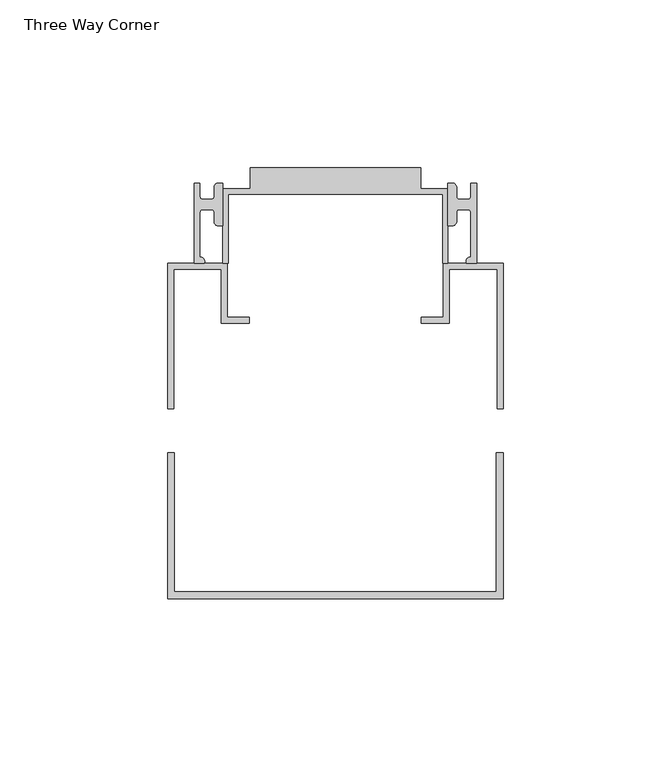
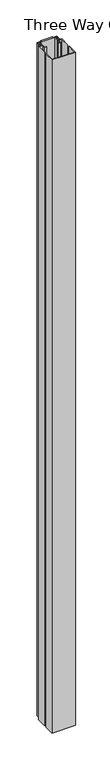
"""IFC4 building model written with IfcOpenShell, lengths in millimetres: proxy geometry, Connection-Corner-Teknion-OptosLP-Three_Way_FZCD3_G : Three Way Corner."""

from ifc_helpers import new_model, si_unit, point, frame_2d, origin, origin_with_axes, place, context, project, spatial, polyline, circle_curve, trimmed, segment, composite_curve, outline, extrude, source, transform, mapped, element, save


def three_way_corner_eebd27aa(model_context):
    return source(origin(), model_context, "Body", "SweptSolid", [
        extrude(outline(composite_curve([segment(polyline([(-42.1386, 49.9918333), (-42.1386, 73.8678335), (-40.360601, 73.8678335), (-40.360601, 69.8038326)]), True, "CONTINUOUS"), segment(trimmed(circle_curve(frame_2d((-39.5986011, 69.8038326)), 0.7619999), [point((-40.360601, 69.8038326))], [point((-39.5986011, 69.0418327))], True, "CARTESIAN"), True, "CONTINUOUS"), segment(polyline([(-39.5986011, 69.0418327), (-36.9316011, 69.0418325)]), True, "CONTINUOUS"), segment(trimmed(circle_curve(frame_2d((-36.9316011, 69.8038326)), 0.7620001), [point((-36.9316011, 69.0418325))], [point((-36.169601, 69.8038326))], True, "CARTESIAN"), True, "CONTINUOUS"), segment(polyline([(-36.169601, 69.8038326), (-36.169601, 72.5978326)]), True, "CONTINUOUS"), segment(trimmed(circle_curve(frame_2d((-34.8996001, 72.5978326)), 1.2700009), [point((-36.169601, 72.5978326))], [point((-34.8996001, 73.8678335))], False, "CARTESIAN"), True, "CONTINUOUS"), segment(polyline([(-34.8996001, 73.8678335), (-33.5509483, 73.8678335), (-33.5509483, 61.1678309), (-34.8995992, 61.1678309)]), True, "CONTINUOUS"), segment(trimmed(circle_curve(frame_2d((-34.8995992, 62.4378326)), 1.2700017), [point((-34.8995992, 61.1678309))], [point((-36.1696009, 62.4378326))], False, "CARTESIAN"), True, "CONTINUOUS"), segment(polyline([(-36.1696009, 62.4378326), (-36.1696009, 65.2318326)]), True, "CONTINUOUS"), segment(trimmed(circle_curve(frame_2d((-36.9316011, 65.2318326)), 0.762), [point((-36.1696009, 65.2318326))], [point((-36.9131345, 65.9936088))], True, "CARTESIAN"), True, "CONTINUOUS"), segment(polyline([(-36.9131345, 65.9936088), (-39.5994933, 65.9936088)]), True, "CONTINUOUS"), segment(trimmed(circle_curve(frame_2d((-39.5994933, 65.2319427)), 0.7616661), [point((-39.5994933, 65.9936088))], [point((-40.3611594, 65.2319427))], True, "CARTESIAN"), True, "CONTINUOUS"), segment(polyline([(-40.3611594, 65.2319427), (-40.3611594, 51.7634104)]), True, "CONTINUOUS"), segment(trimmed(circle_curve(frame_2d((-40.2336011, 50.4998326)), 1.27), [point((-40.3611594, 51.7634104))], [point((-39.0696266, 49.9918333))], False, "CARTESIAN"), True, "CONTINUOUS"), segment(polyline([(-39.0696266, 49.9918333), (-42.1386, 49.9918333)]), True, "CONTINUOUS")], self_intersect=False)), origin_with_axes(), (0.0, 0.0, 1.0), 3048.0),
        extrude(outline(composite_curve([segment(polyline([(42.1386, 49.9918333), (39.0696266, 49.9918333)]), True, "CONTINUOUS"), segment(trimmed(circle_curve(frame_2d((40.2336011, 50.4998326)), 1.27), [point((39.0696266, 49.9918333))], [point((40.3611594, 51.7634104))], False, "CARTESIAN"), True, "CONTINUOUS"), segment(polyline([(40.3611594, 51.7634104), (40.3611594, 65.2319427)]), True, "CONTINUOUS"), segment(trimmed(circle_curve(frame_2d((39.5994933, 65.2319427)), 0.7616661), [point((40.3611594, 65.2319427))], [point((39.5994933, 65.9936088))], True, "CARTESIAN"), True, "CONTINUOUS"), segment(polyline([(39.5994933, 65.9936088), (36.9131345, 65.9936088)]), True, "CONTINUOUS"), segment(trimmed(circle_curve(frame_2d((36.9316011, 65.2318326)), 0.762), [point((36.9131345, 65.9936088))], [point((36.1696011, 65.2318326))], True, "CARTESIAN"), True, "CONTINUOUS"), segment(polyline([(36.1696011, 65.2318326), (36.1696009, 62.4378326)]), True, "CONTINUOUS"), segment(trimmed(circle_curve(frame_2d((34.8995992, 62.4378326)), 1.2700017), [point((36.1696009, 62.4378326))], [point((34.8995992, 61.1678309))], False, "CARTESIAN"), True, "CONTINUOUS"), segment(polyline([(34.8995992, 61.1678309), (33.5509483, 61.1678309), (33.5509483, 73.8678335), (34.8996001, 73.8678335)]), True, "CONTINUOUS"), segment(trimmed(circle_curve(frame_2d((34.8996001, 72.5978326)), 1.2700009), [point((34.8996001, 73.8678335))], [point((36.169601, 72.5978326))], False, "CARTESIAN"), True, "CONTINUOUS"), segment(polyline([(36.169601, 72.5978326), (36.169601, 69.8038326)]), True, "CONTINUOUS"), segment(trimmed(circle_curve(frame_2d((36.9316011, 69.8038326)), 0.7620001), [point((36.169601, 69.8038326))], [point((36.9316011, 69.0418325))], True, "CARTESIAN"), True, "CONTINUOUS"), segment(polyline([(36.9316011, 69.0418325), (39.5986011, 69.0418325)]), True, "CONTINUOUS"), segment(trimmed(circle_curve(frame_2d((39.5986011, 69.8038326)), 0.7619999), [point((39.5986011, 69.0418325))], [point((40.360601, 69.8038326))], True, "CARTESIAN"), True, "CONTINUOUS"), segment(polyline([(40.360601, 69.8038326), (40.360601, 73.8678335), (42.1386, 73.8678335), (42.1386, 49.9918333)]), True, "CONTINUOUS")], self_intersect=False)), origin_with_axes(), (0.0, 0.0, 1.0), 3048.0),
        extrude(outline(polyline([(-32.0039988, 50.0298343), (-33.5509483, 50.0298343), (-33.5509483, 72.1278317), (-25.3999997, 72.1278317), (-25.3999997, 78.4778349), (25.3999997, 78.4778349), (25.3999997, 72.1278317), (33.5280001, 72.1278317), (33.5280001, 50.0298343), (32.0039988, 50.0298343), (32.0039988, 70.6038303), (-32.0039988, 70.6038303), (-32.0039988, 50.0298343)])), origin_with_axes(), (0.0, 0.0, 1.0), 3048.0),
        extrude(outline(polyline([(-49.9999002, -6.5741676), (-47.9678996, -6.5741676), (-47.9678996, -47.9761676), (47.9678996, -47.9761676), (47.9678996, -6.5741676), (49.9999002, -6.5741676), (49.9999002, -50.0081682), (-49.9999002, -50.0081682), (-49.9999002, -6.5741676)])), origin_with_axes(), (0.0, 0.0, 1.0), 3048.0),
        extrude(outline(polyline([(-50.0000007, 49.9918333), (-32.2199985, 49.9918333), (-32.2199985, 33.8628313), (-25.6159995, 33.8628313), (-25.6159995, 32.0848322), (-33.9980014, 32.0848322), (-33.9980014, 48.2138342), (-48.2220016, 48.2138342), (-48.2220016, 6.5578327), (-50.0000007, 6.5578327), (-50.0000007, 49.9918333)])), origin_with_axes(), (0.0, 0.0, 1.0), 3048.0),
        extrude(outline(polyline([(25.6159995, 33.8628313), (32.2199985, 33.8628313), (32.2199985, 49.9918333), (50.0000007, 49.9918333), (50.0000007, 6.5578327), (48.2220016, 6.5578327), (48.2220016, 48.2138342), (33.9980014, 48.2138342), (33.9980014, 32.0848322), (25.6159995, 32.0848322), (25.6159995, 33.8628313)])), origin_with_axes(), (0.0, 0.0, 1.0), 3048.0),
    ])


if __name__ == "__main__":
    model = new_model("IFC4")
    model_context = context("Model", 3, world=origin())
    ifc_project = project(units=[si_unit("LENGTHUNIT", "METRE", prefix="MILLI")], contexts=[model_context])
    site = spatial("IfcSite", under=ifc_project)
    building = spatial("IfcBuilding", under=site)
    placement = place(None, origin())
    three_way_corner_shape = three_way_corner_eebd27aa(model_context)
    element("IfcBuildingElementProxy", 1, Name="Connection-Corner-Teknion-OptosLP-Three_Way_FZCD3_G : Three Way Corner", ObjectType="Connection-Corner-Teknion-OptosLP-Three_Way_FZCD3_G : Three Way Corner", at=placement, inside=building, context=model_context, shape_type="MappedRepresentation", body=[
        mapped(three_way_corner_shape, transform((0.0, 0.0, 0.0), x_axis=(1.0, 0.0, 0.0), y_axis=(0.0, 1.0, 0.0), z_axis=(0.0, 0.0, 1.0))),
    ])
    save(model, "model.ifc")
